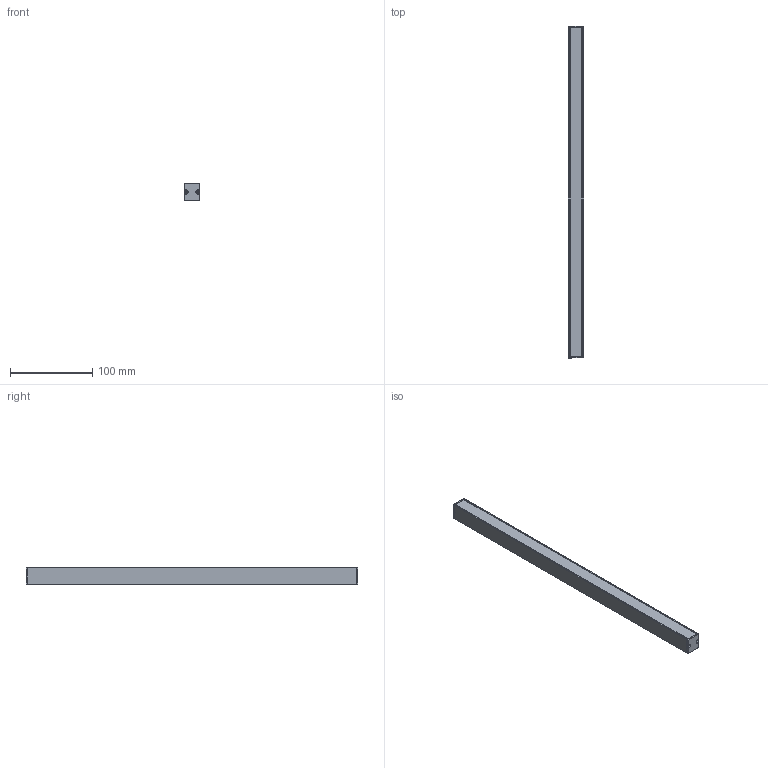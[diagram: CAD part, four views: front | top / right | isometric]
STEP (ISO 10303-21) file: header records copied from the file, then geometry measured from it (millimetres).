
FILE_DESCRIPTION (( 'STEP AP214' ), '1' );
FILE_NAME ('Monaco .STEP', '2024-04-02T06:27:49', ( '' ), ( '' ), 'SwSTEP 2.0', 'SolidWorks 2021', '' );
FILE_SCHEMA (( 'AUTOMOTIVE_DESIGN' ));
Length unit declared in the file: millimetre
Products named in the file (1): Monaco 
Bounding box: 18.4 x 404 x 20 mm (x, y, z)
Volume: 68010.5 mm3; surface area: 97271 mm2
Topology: 7 solids, 7 shells, 271 faces, 719 edges, 440 vertices
Faces by surface type: plane 111, cylinder 100, cone 40, sphere 16, torus 4
Entity records: 11762 total; most frequent: CARTESIAN_POINT 2031, DIRECTION 1415, ORIENTED_EDGE 1398, EDGE_CURVE 699, AXIS2_PLACEMENT_3D 508, VERTEX_POINT 440, VECTOR 399, LINE 399
